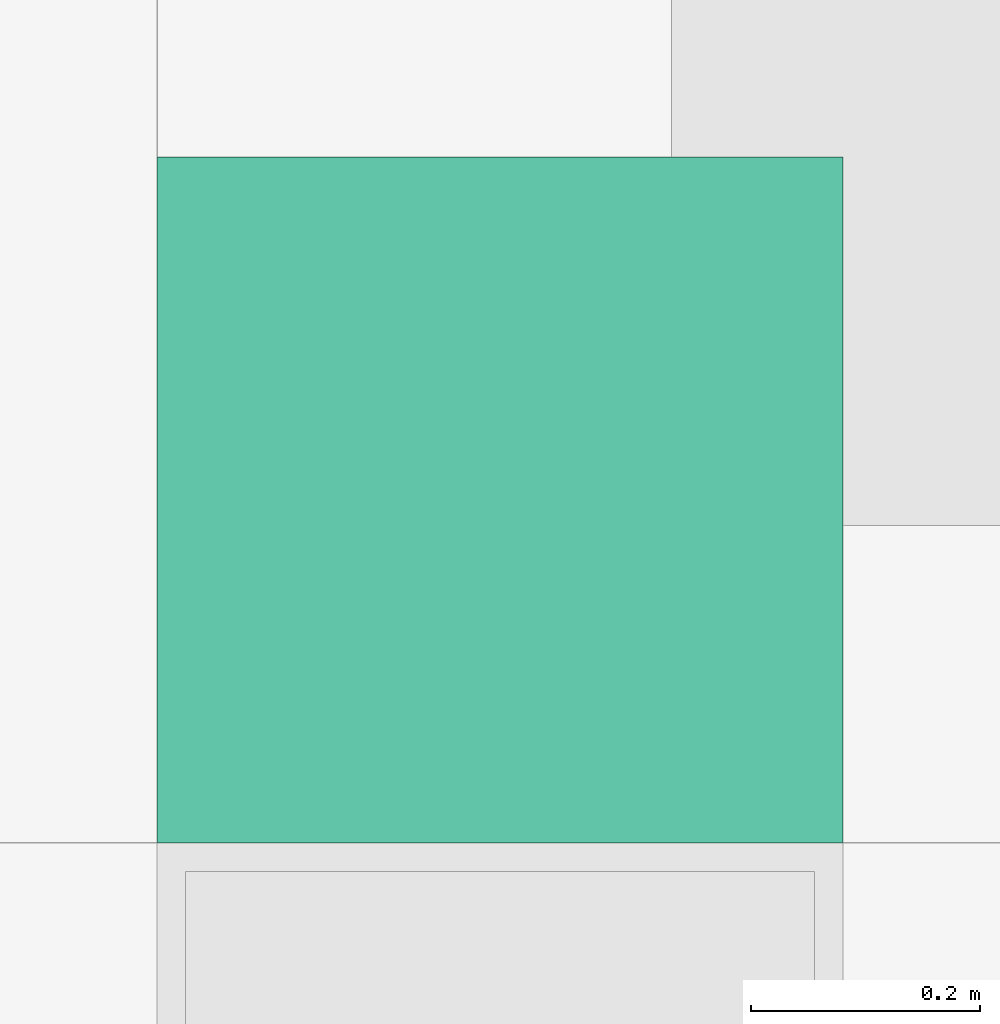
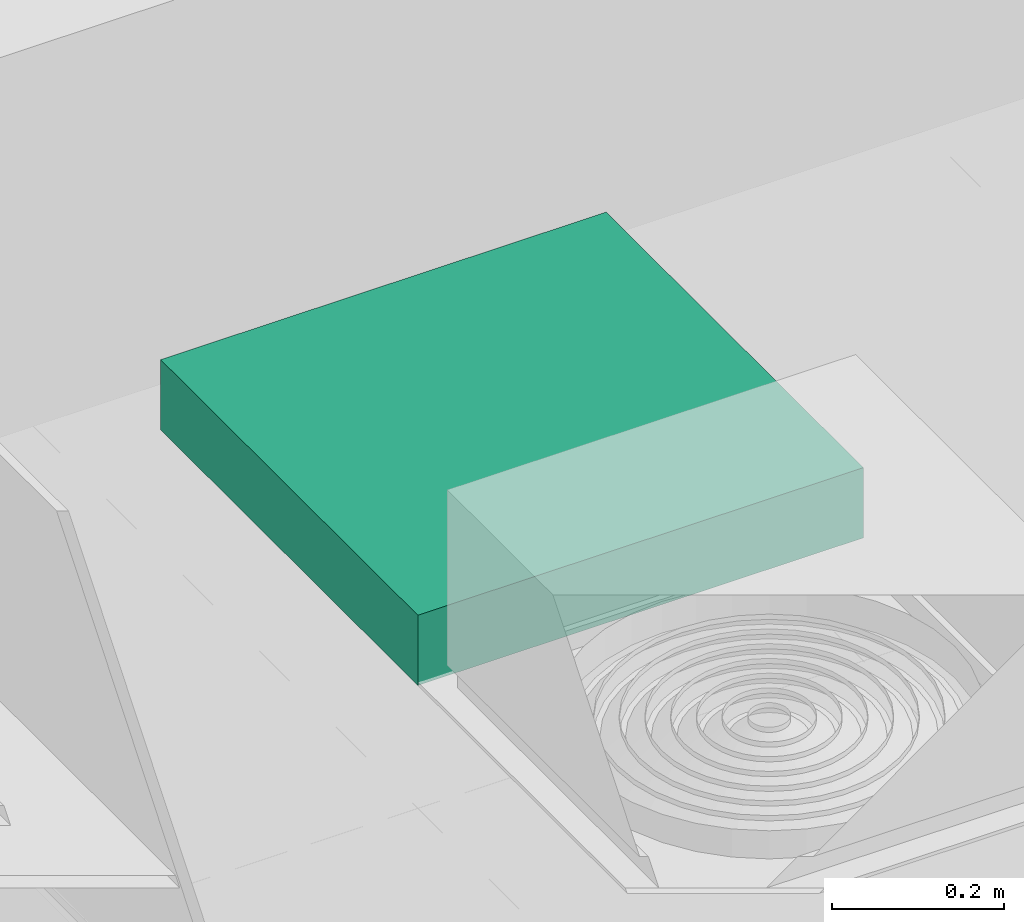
# One storey, part 212 of 347: 1 flow terminal.
"""IFC2X3 building model written with IfcOpenShell, lengths in millimetres."""

from ifc_helpers import new_model, entity, si_unit, converted_unit, derived_unit, money_unit, direction, frame, origin_with_axes, place, context, subcontext, project, spatial, open_shell, faceted_brep, surface_model, source, transform, mapped, type_object, type_shapes, element, save


model = new_model("IFC2X3")

# Units and contexts
model_context = context("Model", 3, precision=0.01, world=origin_with_axes(), true_north=direction((0.0, 1.0)))
plan_context = context("Plan", 3, precision=0.01, world=origin_with_axes(), true_north=direction((0.0, 1.0)))
body_context = subcontext(model_context, "Body", "Model", "MODEL_VIEW")
ifc_project = project(units=[si_unit("LENGTHUNIT", "METRE", prefix="MILLI"), si_unit("AREAUNIT", "SQUARE_METRE"), si_unit("VOLUMEUNIT", "CUBIC_METRE"), converted_unit("PLANEANGLEUNIT", "DEGREE", entity("IfcPlaneAngleMeasure", 0.0174532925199), si_unit("PLANEANGLEUNIT", "RADIAN"), dimensions=[0, 0, 0, 0, 0, 0, 0]), money_unit("EUR"), converted_unit("TIMEUNIT", "Year", entity("IfcTimeMeasure", 31556926.0), si_unit("TIMEUNIT", "SECOND"), dimensions=[0, 0, 1, 0, 0, 0, 0]), si_unit("MASSUNIT", "GRAM", prefix="KILO"), si_unit("THERMODYNAMICTEMPERATUREUNIT", "DEGREE_CELSIUS"), si_unit("LUMINOUSINTENSITYUNIT", "LUMEN"), si_unit("ENERGYUNIT", "JOULE", prefix="MEGA"), derived_unit("THERMALCONDUCTANCEUNIT", [(si_unit("POWERUNIT", "WATT"), 1), (si_unit("LENGTHUNIT", "METRE"), -1), (si_unit("THERMODYNAMICTEMPERATUREUNIT", "KELVIN"), -1)]), derived_unit("SPECIFICHEATCAPACITYUNIT", [(si_unit("ENERGYUNIT", "JOULE"), 1), (si_unit("MASSUNIT", "GRAM", prefix="KILO"), -1), (si_unit("THERMODYNAMICTEMPERATUREUNIT", "KELVIN"), -1)]), derived_unit("MASSDENSITYUNIT", [(si_unit("MASSUNIT", "GRAM", prefix="KILO"), 1), (si_unit("VOLUMEUNIT", "CUBIC_METRE"), -1)])], contexts=[model_context, plan_context])

# Site, building, storey
site_placement = place(None, origin_with_axes())
site = spatial("IfcSite", under=ifc_project, at=site_placement, Name="Site", CompositionType="ELEMENT")
building_placement = place(site_placement, origin_with_axes())
building = spatial("IfcBuilding", under=site, at=building_placement, Name="Naam gebouw", CompositionType="ELEMENT")
storey_placement = place(building_placement, origin_with_axes())
storey = spatial("IfcBuildingStorey", under=building, at=storey_placement, Name="begane grond", CompositionType="ELEMENT", Elevation=0.0)

# Flow terminal
lamp_type = type_object("IfcLampType", Name="TL plafond 25", PredefinedType="NOTDEFINED")
shared_shape = source(origin_with_axes(), body_context, "Body", "SurfaceModel", [
    faceted_brep([(0.0, 0.0, -100.0), (600.0, 0.0, -100.0), (600.0, 0.0, 0.0), (0.0, 0.0, 0.0), (0.0, 600.0, -100.0), (600.0, 600.0, -100.0), (40.0, 40.0, -100.0), (560.0, 40.0, -100.0), (560.0, 560.0, -100.0), (40.0, 560.0, -100.0), (600.0, 600.0, 0.0), (0.0, 600.0, 0.0), (40.0, 40.0, 0.0), (40.0, 560.0, 0.0), (560.0, 560.0, 0.0), (560.0, 40.0, 0.0)], [[[0, 1, 2, 3]], [[0, 4, 5, 1], [6, 7, 8, 9]], [[1, 5, 10, 2]], [[3, 2, 10, 11], [12, 13, 14, 15]], [[4, 0, 3, 11]], [[5, 4, 11, 10]], [[7, 6, 12, 15]], [[8, 7, 15, 14]], [[9, 8, 14, 13]], [[6, 9, 13, 12]]]),
    faceted_brep([(40.0, 40.0, -16.3333333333), (560.0, 40.0, -16.3333333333), (560.0, 40.0, 0.0), (40.0, 40.0, 0.0), (40.0, 560.0, -16.3333333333), (560.0, 560.0, -16.3333333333), (560.0, 560.0, 0.0), (40.0, 560.0, 0.0)], [[[0, 1, 2, 3]], [[0, 4, 5, 1]], [[1, 5, 6, 2]], [[3, 2, 6, 7]], [[4, 0, 3, 7]], [[5, 4, 7, 6]]]),
    surface_model("IfcShellBasedSurfaceModel", [(559.0, 41.0, -100.0), (40.0, 41.0, -100.0), (40.0, 559.0, -100.0), (559.0, 559.0, -100.0)], [open_shell([[[0, 1, 2, 3]]])]),
    faceted_brep([(40.0, 40.0, -100.0), (560.0, 40.0, -100.0), (560.0, 40.0, -60.0), (40.0, 40.0, -60.0), (40.0, 560.0, -100.0), (560.0, 560.0, -100.0), (41.0, 41.0, -100.0), (559.0, 41.0, -100.0), (559.0, 559.0, -100.0), (41.0, 559.0, -100.0), (560.0, 560.0, -60.0), (40.0, 560.0, -60.0), (41.0, 41.0, -60.0), (41.0, 559.0, -60.0), (559.0, 559.0, -60.0), (559.0, 41.0, -60.0)], [[[0, 1, 2, 3]], [[0, 4, 5, 1], [6, 7, 8, 9]], [[1, 5, 10, 2]], [[3, 2, 10, 11], [12, 13, 14, 15]], [[4, 0, 3, 11]], [[5, 4, 11, 10]], [[7, 6, 12, 15]], [[8, 7, 15, 14]], [[9, 8, 14, 13]], [[6, 9, 13, 12]]]),
    faceted_brep([(40.0, 144.0, -48.3333333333), (40.0, 149.740251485, -47.191526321), (560.0, 149.740251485, -47.191526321), (560.0, 144.0, -48.3333333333), (40.0, 138.259748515, -47.191526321), (40.0, 133.393398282, -43.9399350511), (40.0, 130.141807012, -39.0735848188), (40.0, 129.0, -33.3333333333), (40.0, 130.141807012, -27.5930818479), (40.0, 133.393398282, -22.7267316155), (40.0, 138.259748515, -19.4751403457), (40.0, 144.0, -18.3333333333), (40.0, 149.740251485, -19.4751403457), (40.0, 154.606601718, -22.7267316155), (40.0, 157.858192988, -27.5930818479), (40.0, 159.0, -33.3333333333), (40.0, 157.858192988, -39.0735848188), (40.0, 154.606601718, -43.9399350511), (40.0, 144.0, -46.3333333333), (40.0, 148.974884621, -45.343767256), (40.0, 153.192388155, -42.5257214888), (40.0, 156.010433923, -38.3082179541), (40.0, 157.0, -33.3333333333), (40.0, 156.010433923, -28.3584487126), (40.0, 153.192388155, -24.1409451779), (40.0, 148.974884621, -21.3228994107), (40.0, 144.0, -20.3333333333), (40.0, 139.025115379, -21.3228994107), (40.0, 134.807611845, -24.1409451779), (40.0, 131.989566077, -28.3584487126), (40.0, 131.0, -33.3333333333), (40.0, 131.989566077, -38.3082179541), (40.0, 134.807611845, -42.5257214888), (40.0, 139.025115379, -45.343767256), (560.0, 154.606601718, -43.9399350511), (560.0, 157.858192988, -39.0735848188), (560.0, 159.0, -33.3333333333), (560.0, 157.858192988, -27.5930818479), (560.0, 154.606601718, -22.7267316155), (560.0, 149.740251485, -19.4751403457), (560.0, 144.0, -18.3333333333), (560.0, 138.259748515, -19.4751403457), (560.0, 133.393398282, -22.7267316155), (560.0, 130.141807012, -27.5930818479), (560.0, 129.0, -33.3333333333), (560.0, 130.141807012, -39.0735848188), (560.0, 133.393398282, -43.9399350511), (560.0, 138.259748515, -47.191526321), (560.0, 144.0, -46.3333333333), (560.0, 139.025115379, -45.343767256), (560.0, 134.807611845, -42.5257214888), (560.0, 131.989566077, -38.3082179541), (560.0, 131.0, -33.3333333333), (560.0, 131.989566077, -28.3584487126), (560.0, 134.807611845, -24.1409451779), (560.0, 139.025115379, -21.3228994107), (560.0, 144.0, -20.3333333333), (560.0, 148.974884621, -21.3228994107), (560.0, 153.192388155, -24.1409451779), (560.0, 156.010433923, -28.3584487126), (560.0, 157.0, -33.3333333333), (560.0, 156.010433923, -38.3082179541), (560.0, 153.192388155, -42.5257214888), (560.0, 148.974884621, -45.343767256)], [[[0, 1, 2, 3]], [[0, 4, 5, 6, 7, 8, 9, 10, 11, 12, 13, 14, 15, 16, 17, 1], [18, 19, 20, 21, 22, 23, 24, 25, 26, 27, 28, 29, 30, 31, 32, 33]], [[1, 17, 34, 2]], [[3, 2, 34, 35, 36, 37, 38, 39, 40, 41, 42, 43, 44, 45, 46, 47], [48, 49, 50, 51, 52, 53, 54, 55, 56, 57, 58, 59, 60, 61, 62, 63]], [[4, 0, 3, 47]], [[5, 4, 47, 46]], [[6, 5, 46, 45]], [[7, 6, 45, 44]], [[8, 7, 44, 43]], [[9, 8, 43, 42]], [[10, 9, 42, 41]], [[11, 10, 41, 40]], [[12, 11, 40, 39]], [[13, 12, 39, 38]], [[14, 13, 38, 37]], [[15, 14, 37, 36]], [[16, 15, 36, 35]], [[17, 16, 35, 34]], [[19, 18, 48, 63]], [[20, 19, 63, 62]], [[21, 20, 62, 61]], [[22, 21, 61, 60]], [[23, 22, 60, 59]], [[24, 23, 59, 58]], [[25, 24, 58, 57]], [[26, 25, 57, 56]], [[27, 26, 56, 55]], [[28, 27, 55, 54]], [[29, 28, 54, 53]], [[30, 29, 53, 52]], [[31, 30, 52, 51]], [[32, 31, 51, 50]], [[33, 32, 50, 49]], [[18, 33, 49, 48]]]),
    faceted_brep([(40.0, 248.0, -48.3333333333), (40.0, 253.740251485, -47.191526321), (560.0, 253.740251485, -47.191526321), (560.0, 248.0, -48.3333333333), (40.0, 242.259748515, -47.191526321), (40.0, 237.393398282, -43.9399350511), (40.0, 234.141807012, -39.0735848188), (40.0, 233.0, -33.3333333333), (40.0, 234.141807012, -27.5930818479), (40.0, 237.393398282, -22.7267316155), (40.0, 242.259748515, -19.4751403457), (40.0, 248.0, -18.3333333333), (40.0, 253.740251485, -19.4751403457), (40.0, 258.606601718, -22.7267316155), (40.0, 261.858192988, -27.5930818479), (40.0, 263.0, -33.3333333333), (40.0, 261.858192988, -39.0735848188), (40.0, 258.606601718, -43.9399350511), (40.0, 248.0, -46.3333333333), (40.0, 252.974884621, -45.343767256), (40.0, 257.192388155, -42.5257214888), (40.0, 260.010433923, -38.3082179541), (40.0, 261.0, -33.3333333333), (40.0, 260.010433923, -28.3584487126), (40.0, 257.192388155, -24.1409451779), (40.0, 252.974884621, -21.3228994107), (40.0, 248.0, -20.3333333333), (40.0, 243.025115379, -21.3228994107), (40.0, 238.807611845, -24.1409451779), (40.0, 235.989566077, -28.3584487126), (40.0, 235.0, -33.3333333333), (40.0, 235.989566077, -38.3082179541), (40.0, 238.807611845, -42.5257214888), (40.0, 243.025115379, -45.343767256), (560.0, 258.606601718, -43.9399350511), (560.0, 261.858192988, -39.0735848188), (560.0, 263.0, -33.3333333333), (560.0, 261.858192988, -27.5930818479), (560.0, 258.606601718, -22.7267316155), (560.0, 253.740251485, -19.4751403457), (560.0, 248.0, -18.3333333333), (560.0, 242.259748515, -19.4751403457), (560.0, 237.393398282, -22.7267316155), (560.0, 234.141807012, -27.5930818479), (560.0, 233.0, -33.3333333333), (560.0, 234.141807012, -39.0735848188), (560.0, 237.393398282, -43.9399350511), (560.0, 242.259748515, -47.191526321), (560.0, 248.0, -46.3333333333), (560.0, 243.025115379, -45.343767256), (560.0, 238.807611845, -42.5257214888), (560.0, 235.989566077, -38.3082179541), (560.0, 235.0, -33.3333333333), (560.0, 235.989566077, -28.3584487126), (560.0, 238.807611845, -24.1409451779), (560.0, 243.025115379, -21.3228994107), (560.0, 248.0, -20.3333333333), (560.0, 252.974884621, -21.3228994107), (560.0, 257.192388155, -24.1409451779), (560.0, 260.010433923, -28.3584487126), (560.0, 261.0, -33.3333333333), (560.0, 260.010433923, -38.3082179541), (560.0, 257.192388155, -42.5257214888), (560.0, 252.974884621, -45.343767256)], [[[0, 1, 2, 3]], [[0, 4, 5, 6, 7, 8, 9, 10, 11, 12, 13, 14, 15, 16, 17, 1], [18, 19, 20, 21, 22, 23, 24, 25, 26, 27, 28, 29, 30, 31, 32, 33]], [[1, 17, 34, 2]], [[3, 2, 34, 35, 36, 37, 38, 39, 40, 41, 42, 43, 44, 45, 46, 47], [48, 49, 50, 51, 52, 53, 54, 55, 56, 57, 58, 59, 60, 61, 62, 63]], [[4, 0, 3, 47]], [[5, 4, 47, 46]], [[6, 5, 46, 45]], [[7, 6, 45, 44]], [[8, 7, 44, 43]], [[9, 8, 43, 42]], [[10, 9, 42, 41]], [[11, 10, 41, 40]], [[12, 11, 40, 39]], [[13, 12, 39, 38]], [[14, 13, 38, 37]], [[15, 14, 37, 36]], [[16, 15, 36, 35]], [[17, 16, 35, 34]], [[19, 18, 48, 63]], [[20, 19, 63, 62]], [[21, 20, 62, 61]], [[22, 21, 61, 60]], [[23, 22, 60, 59]], [[24, 23, 59, 58]], [[25, 24, 58, 57]], [[26, 25, 57, 56]], [[27, 26, 56, 55]], [[28, 27, 55, 54]], [[29, 28, 54, 53]], [[30, 29, 53, 52]], [[31, 30, 52, 51]], [[32, 31, 51, 50]], [[33, 32, 50, 49]], [[18, 33, 49, 48]]]),
    faceted_brep([(40.0, 352.0, -48.3333333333), (40.0, 357.740251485, -47.191526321), (560.0, 357.740251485, -47.191526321), (560.0, 352.0, -48.3333333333), (40.0, 346.259748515, -47.191526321), (40.0, 341.393398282, -43.9399350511), (40.0, 338.141807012, -39.0735848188), (40.0, 337.0, -33.3333333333), (40.0, 338.141807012, -27.5930818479), (40.0, 341.393398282, -22.7267316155), (40.0, 346.259748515, -19.4751403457), (40.0, 352.0, -18.3333333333), (40.0, 357.740251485, -19.4751403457), (40.0, 362.606601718, -22.7267316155), (40.0, 365.858192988, -27.5930818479), (40.0, 367.0, -33.3333333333), (40.0, 365.858192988, -39.0735848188), (40.0, 362.606601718, -43.9399350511), (40.0, 352.0, -46.3333333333), (40.0, 356.974884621, -45.343767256), (40.0, 361.192388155, -42.5257214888), (40.0, 364.010433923, -38.3082179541), (40.0, 365.0, -33.3333333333), (40.0, 364.010433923, -28.3584487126), (40.0, 361.192388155, -24.1409451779), (40.0, 356.974884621, -21.3228994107), (40.0, 352.0, -20.3333333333), (40.0, 347.025115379, -21.3228994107), (40.0, 342.807611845, -24.1409451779), (40.0, 339.989566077, -28.3584487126), (40.0, 339.0, -33.3333333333), (40.0, 339.989566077, -38.3082179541), (40.0, 342.807611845, -42.5257214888), (40.0, 347.025115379, -45.343767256), (560.0, 362.606601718, -43.9399350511), (560.0, 365.858192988, -39.0735848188), (560.0, 367.0, -33.3333333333), (560.0, 365.858192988, -27.5930818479), (560.0, 362.606601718, -22.7267316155), (560.0, 357.740251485, -19.4751403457), (560.0, 352.0, -18.3333333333), (560.0, 346.259748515, -19.4751403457), (560.0, 341.393398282, -22.7267316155), (560.0, 338.141807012, -27.5930818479), (560.0, 337.0, -33.3333333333), (560.0, 338.141807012, -39.0735848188), (560.0, 341.393398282, -43.9399350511), (560.0, 346.259748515, -47.191526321), (560.0, 352.0, -46.3333333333), (560.0, 347.025115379, -45.343767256), (560.0, 342.807611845, -42.5257214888), (560.0, 339.989566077, -38.3082179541), (560.0, 339.0, -33.3333333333), (560.0, 339.989566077, -28.3584487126), (560.0, 342.807611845, -24.1409451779), (560.0, 347.025115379, -21.3228994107), (560.0, 352.0, -20.3333333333), (560.0, 356.974884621, -21.3228994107), (560.0, 361.192388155, -24.1409451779), (560.0, 364.010433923, -28.3584487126), (560.0, 365.0, -33.3333333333), (560.0, 364.010433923, -38.3082179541), (560.0, 361.192388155, -42.5257214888), (560.0, 356.974884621, -45.343767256)], [[[0, 1, 2, 3]], [[0, 4, 5, 6, 7, 8, 9, 10, 11, 12, 13, 14, 15, 16, 17, 1], [18, 19, 20, 21, 22, 23, 24, 25, 26, 27, 28, 29, 30, 31, 32, 33]], [[1, 17, 34, 2]], [[3, 2, 34, 35, 36, 37, 38, 39, 40, 41, 42, 43, 44, 45, 46, 47], [48, 49, 50, 51, 52, 53, 54, 55, 56, 57, 58, 59, 60, 61, 62, 63]], [[4, 0, 3, 47]], [[5, 4, 47, 46]], [[6, 5, 46, 45]], [[7, 6, 45, 44]], [[8, 7, 44, 43]], [[9, 8, 43, 42]], [[10, 9, 42, 41]], [[11, 10, 41, 40]], [[12, 11, 40, 39]], [[13, 12, 39, 38]], [[14, 13, 38, 37]], [[15, 14, 37, 36]], [[16, 15, 36, 35]], [[17, 16, 35, 34]], [[19, 18, 48, 63]], [[20, 19, 63, 62]], [[21, 20, 62, 61]], [[22, 21, 61, 60]], [[23, 22, 60, 59]], [[24, 23, 59, 58]], [[25, 24, 58, 57]], [[26, 25, 57, 56]], [[27, 26, 56, 55]], [[28, 27, 55, 54]], [[29, 28, 54, 53]], [[30, 29, 53, 52]], [[31, 30, 52, 51]], [[32, 31, 51, 50]], [[33, 32, 50, 49]], [[18, 33, 49, 48]]]),
    faceted_brep([(40.0, 456.0, -48.3333333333), (40.0, 461.740251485, -47.191526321), (560.0, 461.740251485, -47.191526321), (560.0, 456.0, -48.3333333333), (40.0, 450.259748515, -47.191526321), (40.0, 445.393398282, -43.9399350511), (40.0, 442.141807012, -39.0735848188), (40.0, 441.0, -33.3333333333), (40.0, 442.141807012, -27.5930818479), (40.0, 445.393398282, -22.7267316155), (40.0, 450.259748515, -19.4751403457), (40.0, 456.0, -18.3333333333), (40.0, 461.740251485, -19.4751403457), (40.0, 466.606601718, -22.7267316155), (40.0, 469.858192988, -27.5930818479), (40.0, 471.0, -33.3333333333), (40.0, 469.858192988, -39.0735848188), (40.0, 466.606601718, -43.9399350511), (40.0, 456.0, -46.3333333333), (40.0, 460.974884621, -45.343767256), (40.0, 465.192388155, -42.5257214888), (40.0, 468.010433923, -38.3082179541), (40.0, 469.0, -33.3333333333), (40.0, 468.010433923, -28.3584487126), (40.0, 465.192388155, -24.1409451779), (40.0, 460.974884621, -21.3228994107), (40.0, 456.0, -20.3333333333), (40.0, 451.025115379, -21.3228994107), (40.0, 446.807611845, -24.1409451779), (40.0, 443.989566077, -28.3584487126), (40.0, 443.0, -33.3333333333), (40.0, 443.989566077, -38.3082179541), (40.0, 446.807611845, -42.5257214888), (40.0, 451.025115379, -45.343767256), (560.0, 466.606601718, -43.9399350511), (560.0, 469.858192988, -39.0735848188), (560.0, 471.0, -33.3333333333), (560.0, 469.858192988, -27.5930818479), (560.0, 466.606601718, -22.7267316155), (560.0, 461.740251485, -19.4751403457), (560.0, 456.0, -18.3333333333), (560.0, 450.259748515, -19.4751403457), (560.0, 445.393398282, -22.7267316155), (560.0, 442.141807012, -27.5930818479), (560.0, 441.0, -33.3333333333), (560.0, 442.141807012, -39.0735848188), (560.0, 445.393398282, -43.9399350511), (560.0, 450.259748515, -47.191526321), (560.0, 456.0, -46.3333333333), (560.0, 451.025115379, -45.343767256), (560.0, 446.807611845, -42.5257214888), (560.0, 443.989566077, -38.3082179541), (560.0, 443.0, -33.3333333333), (560.0, 443.989566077, -28.3584487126), (560.0, 446.807611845, -24.1409451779), (560.0, 451.025115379, -21.3228994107), (560.0, 456.0, -20.3333333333), (560.0, 460.974884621, -21.3228994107), (560.0, 465.192388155, -24.1409451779), (560.0, 468.010433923, -28.3584487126), (560.0, 469.0, -33.3333333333), (560.0, 468.010433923, -38.3082179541), (560.0, 465.192388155, -42.5257214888), (560.0, 460.974884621, -45.343767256)], [[[0, 1, 2, 3]], [[0, 4, 5, 6, 7, 8, 9, 10, 11, 12, 13, 14, 15, 16, 17, 1], [18, 19, 20, 21, 22, 23, 24, 25, 26, 27, 28, 29, 30, 31, 32, 33]], [[1, 17, 34, 2]], [[3, 2, 34, 35, 36, 37, 38, 39, 40, 41, 42, 43, 44, 45, 46, 47], [48, 49, 50, 51, 52, 53, 54, 55, 56, 57, 58, 59, 60, 61, 62, 63]], [[4, 0, 3, 47]], [[5, 4, 47, 46]], [[6, 5, 46, 45]], [[7, 6, 45, 44]], [[8, 7, 44, 43]], [[9, 8, 43, 42]], [[10, 9, 42, 41]], [[11, 10, 41, 40]], [[12, 11, 40, 39]], [[13, 12, 39, 38]], [[14, 13, 38, 37]], [[15, 14, 37, 36]], [[16, 15, 36, 35]], [[17, 16, 35, 34]], [[19, 18, 48, 63]], [[20, 19, 63, 62]], [[21, 20, 62, 61]], [[22, 21, 61, 60]], [[23, 22, 60, 59]], [[24, 23, 59, 58]], [[25, 24, 58, 57]], [[26, 25, 57, 56]], [[27, 26, 56, 55]], [[28, 27, 55, 54]], [[29, 28, 54, 53]], [[30, 29, 53, 52]], [[31, 30, 52, 51]], [[32, 31, 51, 50]], [[33, 32, 50, 49]], [[18, 33, 49, 48]]]),
])
type_shapes(lamp_type, [shared_shape])
flow_terminal_placement = place(storey_placement, frame((25325.0, 19090.0000948, 3295.0), z_axis=(0.0, 0.0, 1.0), x_axis=(1.0, 0.0, 0.0)))
element("IfcFlowTerminal", 1, at=flow_terminal_placement, inside=storey, type_object=lamp_type, Name="63_Lamp-x", ObjectType="Lamp", context=body_context, shape_type="MappedRepresentation", body=[
    mapped(shared_shape, transform((0.0, 0.0, 0.0))),
])

save(model, "model.ifc")
